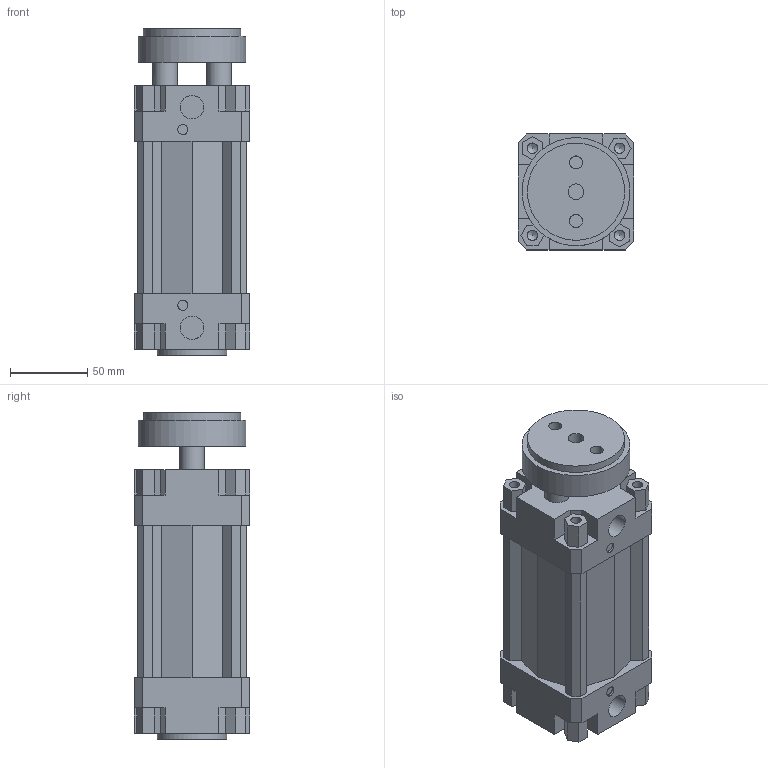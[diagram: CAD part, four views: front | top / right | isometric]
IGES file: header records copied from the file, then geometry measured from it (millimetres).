
Global section: file name: 132#_063_0050_01; native system: Autodesk Inventor 2014; preprocessor: unknown; author: A. Manieri; date: 20161006.155852; units: millimetre
Bounding box: 75 x 75 x 212 mm (x, y, z)
Volume: 747878.8 mm3; surface area: 142622.1 mm2
Topology: 2 solids, 2 shells, 180 faces, 491 edges, 335 vertices
Faces by surface type: bspline 180
